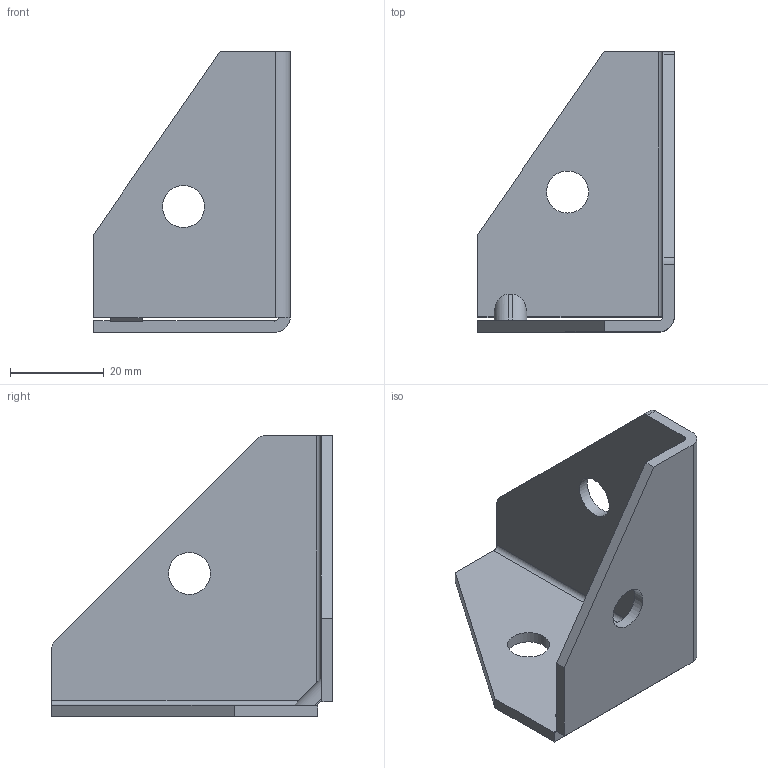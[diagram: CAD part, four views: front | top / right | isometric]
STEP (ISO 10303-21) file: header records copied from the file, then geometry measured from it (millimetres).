
FILE_DESCRIPTION(/* description */ ('STEP AP214'),/* implementation_level */ '2;1');
FILE_NAME(/* name */ '093WV452V',/* time_stamp */ '2023-07-28T10:47:16+02:00',/* author */ ('License CC BY-ND 4.0'),/* organization */ ('CADENAS'),/* preprocessor_version */ 'ST-DEVELOPER v19.3',/* originating_system */ 'PARTsolutions',/* authorisation */ ' ');
FILE_SCHEMA (('AUTOMOTIVE_DESIGN {1 0 10303 214 3 1 1}'));
Length unit declared in the file: millimetre
Products named in the file (1): 093WV452V
Bounding box: 42 x 60 x 60 mm (x, y, z)
Volume: 13889.6 mm3; surface area: 12511.9 mm2
Topology: 1 solids, 1 shells, 35 faces, 101 edges, 65 vertices
Faces by surface type: plane 19, cylinder 15, sphere 1
Full cylindrical faces by diameter (mm): 9 x3
Entity records: 1177 total; most frequent: DIRECTION 201, CARTESIAN_POINT 198, ORIENTED_EDGE 194, EDGE_CURVE 97, AXIS2_PLACEMENT_3D 68, LINE 65, VECTOR 65, VERTEX_POINT 65
